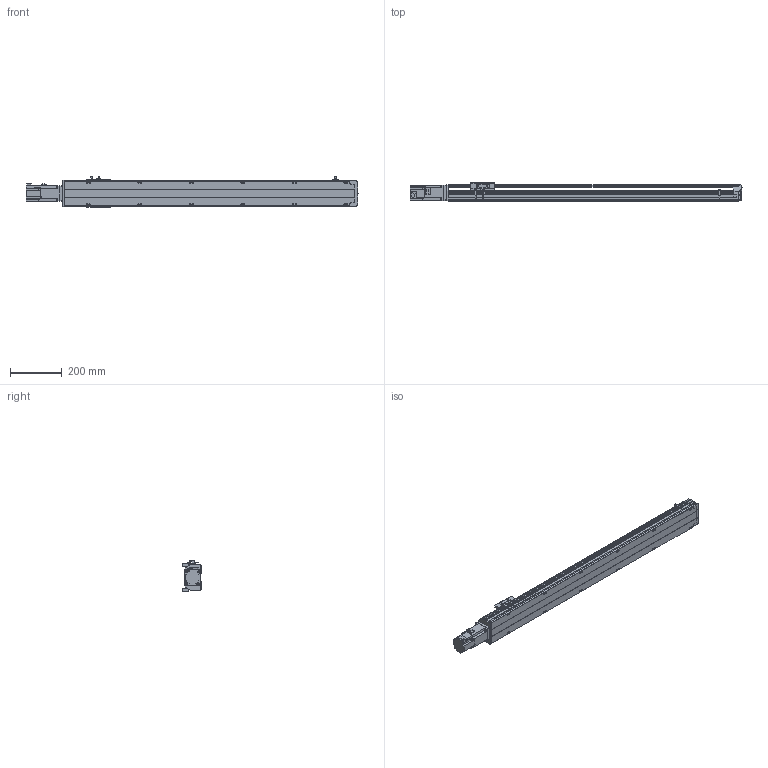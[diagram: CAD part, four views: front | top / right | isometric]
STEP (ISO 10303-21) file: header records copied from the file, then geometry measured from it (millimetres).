
FILE_DESCRIPTION(/* description */ ('STEP AP214'),/* implementation_level */ '2;1');
FILE_NAME(/* name */ 'PSS120-L10-S900-BC-T40-C1-N(0)',/* time_stamp */ '2022-06-02T02:33:39+02:00',/* author */ ('License CC BY-ND 4.0'),/* organization */ ('CADENAS'),/* preprocessor_version */ 'ST-DEVELOPER v18.102',/* originating_system */ 'PARTsolutions',/* authorisation */ ' ');
FILE_SCHEMA (('AUTOMOTIVE_DESIGN {1 0 10303 214 3 1 1}'));
Length unit declared in the file: millimetre
Products named in the file (8): PSS120-L10-S900-BC-T40-C1-N(0); PSS120-S900-BC-N_S; T40-p1; PSS120BC-N_h; PSS120-N_sensor; PSS120-BC-C1-N_sl; PSS120-N_Q; PSS120-S900-BC-C1-N_body
Assembly tree (9 placements, depth 2):
  PSS120-L10-S900-BC-T40-C1-N(0)
    PSS120-S900-BC-N_S
    T40-p1
    PSS120BC-N_h
    PSS120-N_sensor  x3
    PSS120-BC-C1-N_sl
    PSS120-N_Q
    PSS120-S900-BC-C1-N_body
Bounding box: 1288.7 x 70 x 117.7 mm (x, y, z)
Volume: 4099852.5 mm3; surface area: 730762.9 mm2
Topology: 9 solids, 9 shells, 833 faces, 2224 edges, 1474 vertices
Faces by surface type: plane 559, cylinder 250, cone 24
Full cylindrical faces by diameter (mm): 2.8 x3, 4 x4, 4.134 x16, 4.2 x4, 4.4 x2, 4.5 x4, 4.6 x3, 4.917 x4, 5 x6, 5.5 x19, 7 x2, 8 x8, 8.5 x16, 14 x1, 28 x1, 32 x1, 50 x1
Entity records: 22360 total; most frequent: CARTESIAN_POINT 4038, DIRECTION 3747, ORIENTED_EDGE 3610, EDGE_CURVE 1805, VERTEX_POINT 1262, LINE 1253, VECTOR 1253, AXIS2_PLACEMENT_3D 1247
